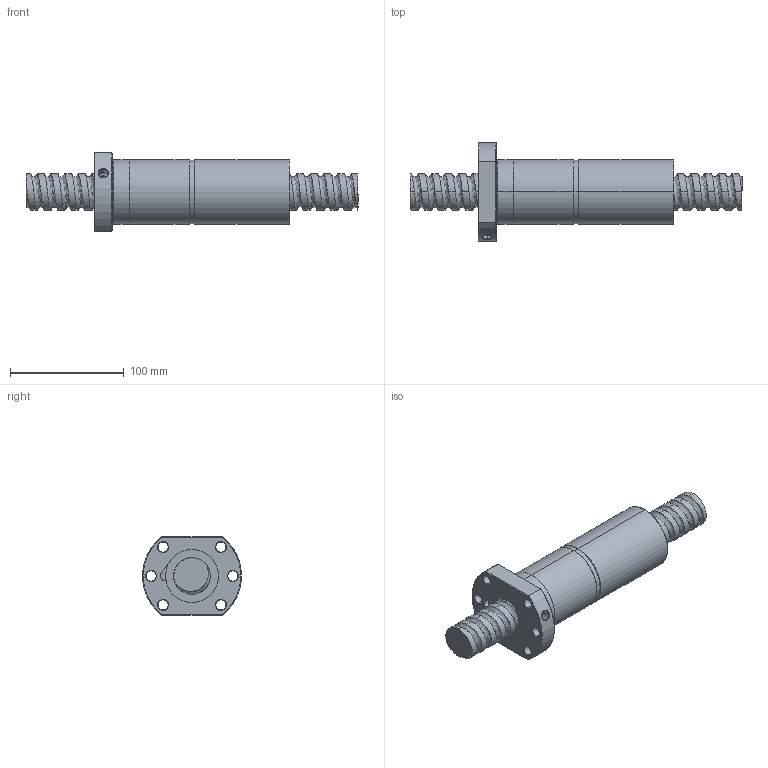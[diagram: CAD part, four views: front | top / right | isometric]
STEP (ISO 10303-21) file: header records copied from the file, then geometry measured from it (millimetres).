
FILE_DESCRIPTION (( 'STEP AP214' ), '1' );
FILE_NAME ('FDDC03212T5-F-C.STEP', '2010-07-06T05:19:08', ( 'XPAUTO' ), ( 'XPAUTO' ), 'SwSTEP 2.0', 'SolidWorks 2007', '' );
FILE_SCHEMA (( 'AUTOMOTIVE_DESIGN' ));
Length unit declared in the file: millimetre
Products named in the file (3): FDDC03212T5-F-C; FDDC03212T5-F-C.sldasm-Part-2_預設; FDDC03212T5-F-C.sldasm-Part-1_預設
Assembly tree (2 placements, depth 2):
  FDDC03212T5-F-C
    FDDC03212T5-F-C.sldasm-Part-2_預設
    FDDC03212T5-F-C.sldasm-Part-1_預設
Bounding box: 292 x 86.7 x 69 mm (x, y, z)
Volume: 541220.8 mm3; surface area: 96101.9 mm2
Topology: 2 solids, 2 shells, 151 faces, 379 edges, 237 vertices
Faces by surface type: cylinder 90, cone 24, plane 22, torus 10, bspline 5
Entity records: 31552 total; most frequent: CARTESIAN_POINT 27998, ORIENTED_EDGE 758, DIRECTION 675, EDGE_CURVE 379, AXIS2_PLACEMENT_3D 272, VERTEX_POINT 237, EDGE_LOOP 172, FACE_OUTER_BOUND 151
